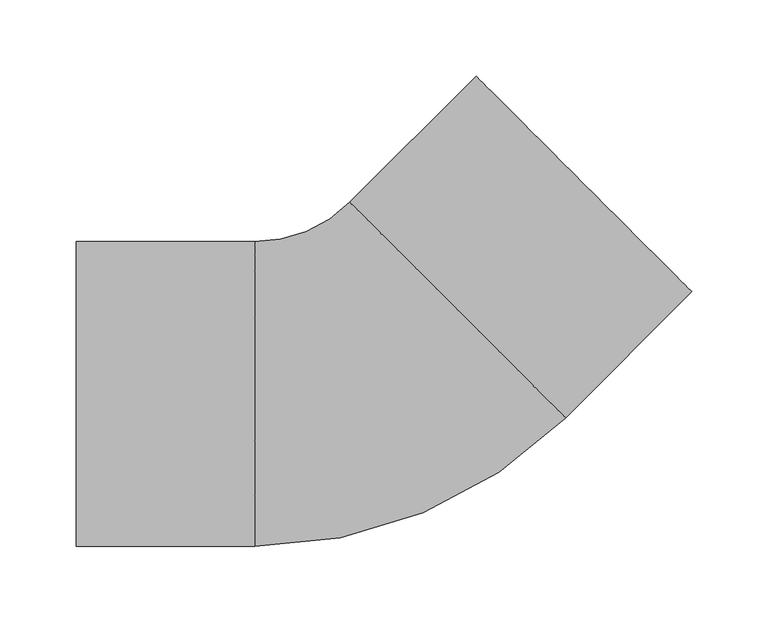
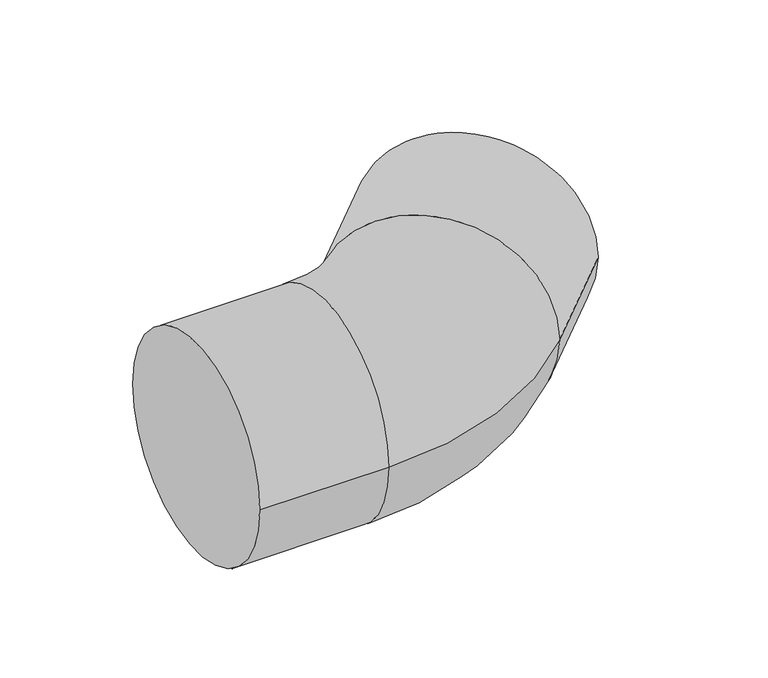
"""IFC4 building model written with IfcOpenShell, lengths in millimetres: pipe fitting geometry, NIRON RED termofusion codo SDR 11 : Estándar."""

import ifcopenshell
import ifcopenshell.guid

model = None  # the IFC model being written
_history = None  # IfcOwnerHistory: only IFC2X3 demands one
_inside = {}  # id of a spatial element -> (the spatial element, [elements in it])
_under = {}  # id of a project, library or spatial element -> (it, [spatial elements below it])
_declared = {}  # id of a project -> (the project, [libraries it declares])
_typed = {}  # id of a type object -> (the type object, [elements of that type])
_made_of = {}  # id of a material, layer set ... -> (it, [elements and type objects made of it])


def new_model(schema):
    """Start an empty IFC model of exactly this schema.

    Asked for "IFC4X3", IfcOpenShell would pick the latest addendum, in which some entities
    have other attributes; the version numbers below select the first issue.
    IFC2X3 requires an IfcOwnerHistory on every rooted entity: one is made here for all.
    """
    global model, _history
    if schema == "IFC4X3":
        model = ifcopenshell.file(schema_version=(4, 3, 0, 0))
    else:
        model = ifcopenshell.file(schema=schema)
    _inside.clear()
    _under.clear()
    _declared.clear()
    _typed.clear()
    _made_of.clear()
    _history = None
    if model.schema == "IFC2X3":
        org = make("IfcOrganization", Name="unknown")
        user = make(
            "IfcPersonAndOrganization",
            ThePerson=make("IfcPerson", FamilyName="unknown"),
            TheOrganization=org,
        )
        app = make(
            "IfcApplication",
            ApplicationDeveloper=org,
            Version="unknown",
            ApplicationFullName="unknown",
            ApplicationIdentifier="unknown",
        )
        _history = make(
            "IfcOwnerHistory",
            OwningUser=user,
            OwningApplication=app,
            ChangeAction="ADDED",
            CreationDate=0,
        )
    return model


def make(cls, **values):
    """One entity of the class cls with the attributes given. An attribute that is None is left unset."""
    return model.create_entity(
        cls, **{name: value for name, value in values.items() if value is not None}
    )


def rooted(cls, **values):
    """An entity with a GlobalId (a new one), such as an element, a storey or a relation."""
    return make(cls, GlobalId=ifcopenshell.guid.new(), OwnerHistory=_history, **values)


def si_unit(unit_type, name, prefix=None):
    """IfcSIUnit, for example si_unit("LENGTHUNIT", "METRE", prefix="MILLI")."""
    return make("IfcSIUnit", UnitType=unit_type, Prefix=prefix, Name=name)


def assignment(units):
    """IfcUnitAssignment: the units of a project."""
    return None if units is None else make("IfcUnitAssignment", Units=units)


def point(xyz):
    """IfcCartesianPoint."""
    return None if xyz is None else make("IfcCartesianPoint", Coordinates=xyz)


def direction(xyz):
    """IfcDirection."""
    return None if xyz is None else make("IfcDirection", DirectionRatios=xyz)


def frame(location, z_axis=None, x_axis=None):
    """IfcAxis2Placement3D, a coordinate frame: its origin and axes. An axis left out is left unset."""
    return make(
        "IfcAxis2Placement3D",
        Location=point(location),
        Axis=direction(z_axis),
        RefDirection=direction(x_axis),
    )


def origin():
    """The frame at (0, 0, 0) with its axes left unset."""
    return frame((0.0, 0.0, 0.0))


def place(relative_to, where):
    """IfcLocalPlacement: puts the frame where relative to a parent placement (None: the world)."""
    return make(
        "IfcLocalPlacement", PlacementRelTo=relative_to, RelativePlacement=where
    )


def context(
    kind, dimensions, precision=None, world=None, true_north=None, identifier=None
):
    """IfcGeometricRepresentationContext, for example the 3D "Model" context."""
    return make(
        "IfcGeometricRepresentationContext",
        ContextIdentifier=identifier,
        ContextType=kind,
        CoordinateSpaceDimension=dimensions,
        Precision=precision,
        WorldCoordinateSystem=world,
        TrueNorth=true_north,
    )


def project(units=None, contexts=None):
    """IfcProject with its units and contexts."""
    return rooted(
        "IfcProject",
        Name="project",
        RepresentationContexts=contexts,
        UnitsInContext=assignment(units),
    )


def spatial(cls, under=None, at=None, **own):
    """A site, building, storey or space (cls), placed at a placement, below another one or the project."""
    s = rooted(cls, ObjectPlacement=at, **own)
    if under is not None:
        _under.setdefault(under.id(), (under, []))[1].append(s)
    return s


def circle_curve(where, radius):
    """IfcCircle in the frame where."""
    return make("IfcCircle", Position=where, Radius=radius)


def ellipse_curve(where, semi_axis1, semi_axis2):
    """IfcEllipse in the frame where."""
    return make(
        "IfcEllipse", Position=where, SemiAxis1=semi_axis1, SemiAxis2=semi_axis2
    )


def trimmed(basis, trim1, trim2, sense, master):
    """IfcTrimmedCurve: the piece of a basis curve between two trims."""
    return make(
        "IfcTrimmedCurve",
        BasisCurve=basis,
        Trim1=trim1,
        Trim2=trim2,
        SenseAgreement=sense,
        MasterRepresentation=master,
    )


def shape(context_of_items, identifier, shape_type, items):
    """IfcShapeRepresentation: the items that make up one representation, for example the "Body"."""
    return make(
        "IfcShapeRepresentation",
        ContextOfItems=context_of_items,
        RepresentationIdentifier=identifier,
        RepresentationType=shape_type,
        Items=items,
    )


def source(mapping_origin, context_of_items, identifier, shape_type, items):
    """IfcRepresentationMap: a shape defined once, which mapped items show again and again."""
    return make(
        "IfcRepresentationMap",
        MappingOrigin=mapping_origin,
        MappedRepresentation=shape(context_of_items, identifier, shape_type, items),
    )


def transform(
    local_origin,
    x_axis=None,
    y_axis=None,
    z_axis=None,
    scale=None,
    scale2=None,
    scale3=None,
    uniform=True,
):
    """IfcCartesianTransformationOperator3D, or its non-uniform kind. x_axis, y_axis, z_axis: its Axis1, 2, 3."""
    if uniform:
        return make(
            "IfcCartesianTransformationOperator3D",
            Axis1=direction(x_axis),
            Axis2=direction(y_axis),
            LocalOrigin=point(local_origin),
            Scale=scale,
            Axis3=direction(z_axis),
        )
    return make(
        "IfcCartesianTransformationOperator3DnonUniform",
        Axis1=direction(x_axis),
        Axis2=direction(y_axis),
        LocalOrigin=point(local_origin),
        Scale=scale,
        Axis3=direction(z_axis),
        Scale2=scale2,
        Scale3=scale3,
    )


def mapped(mapping_source, mapping_target):
    """IfcMappedItem: shows the shape of a source again, moved by a transform."""
    return make(
        "IfcMappedItem", MappingSource=mapping_source, MappingTarget=mapping_target
    )


def made_of(thing, what):
    """Note that an element or type object is made of a material, layer set ...; save() writes the relation."""
    if what is not None:
        _made_of.setdefault(what.id(), (what, []))[1].append(thing)
    return thing


def element(
    cls,
    number,
    at=None,
    inside=None,
    cuts=None,
    type_object=None,
    material=None,
    context=None,
    identifier="Body",
    shape_type=None,
    held_by="IfcProductDefinitionShape",
    body=None,
    shapes=None,
    **own,
):
    """One element of the class cls, such as IfcWall. Its Tag is "e" and its number.

    at: its placement. inside: the storey or other place that contains it. cuts: it is an
    opening in that element (IfcRelVoidsElement). A single representation is given by context,
    identifier, shape_type and body (its items); several are given by shapes. held_by: the class
    of the entity that holds the representations. save() writes the other relations.
    """
    e = rooted(cls, Tag="e%d" % number, ObjectPlacement=at, **own)
    if body is not None:
        shapes = [shape(context, identifier, shape_type, body)]
    if shapes is not None:
        e.Representation = make(held_by, Representations=shapes)
    if inside is not None:
        _inside.setdefault(inside.id(), (inside, []))[1].append(e)
    if cuts is not None:
        rooted(
            "IfcRelVoidsElement", RelatingBuildingElement=cuts, RelatedOpeningElement=e
        )
    if type_object is not None:
        _typed.setdefault(type_object.id(), (type_object, []))[1].append(e)
    return made_of(e, material)


def aggregate(whole, parts):
    """IfcRelAggregates: a whole, such as a stair, and the parts it consists of."""
    return rooted("IfcRelAggregates", RelatingObject=whole, RelatedObjects=parts)


def save(model, path):
    """Write the relations noted so far, then the file.

    IfcRelAggregates (storeys below a building ...), IfcRelContainedInSpatialStructure (elements
    in a storey), IfcRelDefinesByType, IfcRelAssociatesMaterial and IfcRelDeclares: one each for
    every whole, place, type object, material and project.
    """
    for whole, parts in _under.values():
        aggregate(whole, parts)
    for where, things in _inside.values():
        rooted(
            "IfcRelContainedInSpatialStructure",
            RelatedElements=things,
            RelatingStructure=where,
        )
    for kind, things in _typed.values():
        rooted("IfcRelDefinesByType", RelatedObjects=things, RelatingType=kind)
    for what, things in _made_of.values():
        rooted("IfcRelAssociatesMaterial", RelatedObjects=things, RelatingMaterial=what)
    for by, libraries in _declared.values():
        rooted("IfcRelDeclares", RelatingContext=by, RelatedDefinitions=libraries)
    model.write(path)


def plane_surface(at):
    """IfcPlane: the flat surface through the origin of the frame at, square to its z axis."""
    return make("IfcPlane", Position=at)


def cylinder_surface(at, radius):
    """IfcCylindricalSurface: all points at the distance radius from the z axis of the frame at."""
    return make("IfcCylindricalSurface", Position=at, Radius=radius)


def revolved_surface(curve, axis_point, axis_direction):
    """IfcSurfaceOfRevolution: the curve turned about the line through axis_point along axis_direction."""
    return make(
        "IfcSurfaceOfRevolution",
        SweptCurve=make("IfcArbitraryOpenProfileDef", ProfileType="CURVE", Curve=curve),
        AxisPosition=make("IfcAxis1Placement", Location=point(axis_point), Axis=direction(axis_direction)),
    )


def advanced_brep(points, edges, surfaces, faces):
    """IfcAdvancedBrep: a solid bounded by faces that lie on surfaces and meet in shared edges.

    An edge is (start, end): straight between two places in points (the first is 0);
    or (start, end, curve); or (start, end, curve, False) where it runs against its curve.
    A face is (place in surfaces, loops), or (place, loops, False) where it looks against
    its surface's normal. A loop lists edges by number (the first is 1), with a minus sign
    where the edge is run from its end to its start. The first loop is the outer one.
    """
    corners = [point(p) for p in points]
    vertices = [make("IfcVertexPoint", VertexGeometry=c) for c in corners]
    made = []
    for start, end, *more in edges:
        made.append(
            make(
                "IfcEdgeCurve",
                EdgeStart=vertices[start],
                EdgeEnd=vertices[end],
                EdgeGeometry=more[0] if more else make("IfcPolyline", Points=[corners[start], corners[end]]),
                SameSense=more[1] if len(more) > 1 else True,
            )
        )
    hull = []
    for where, loops, *sense in faces:
        bounds = []
        for j, loop in enumerate(loops):
            ring = [make("IfcOrientedEdge", EdgeElement=made[abs(k) - 1], Orientation=k > 0) for k in loop]
            bounds.append(
                make(
                    "IfcFaceOuterBound" if j == 0 else "IfcFaceBound",
                    Bound=make("IfcEdgeLoop", EdgeList=ring),
                    Orientation=True,
                )
            )
        hull.append(make("IfcAdvancedFace", Bounds=bounds, FaceSurface=surfaces[where], SameSense=sense[0] if sense else True))
    return make("IfcAdvancedBrep", Outer=make("IfcClosedShell", CfsFaces=hull))


def pipe_fitting_faf8c4e1(model_context):
    return source(origin(), model_context, "Body", "AdvancedBrep", [
        advanced_brep(
        [(-195.0, -100.0, 0.0), (-195.0, 100.0, 0.0), (-78.0, -100.0, 0.0), (-78.0, 100.0, 0.0), (-15.5563492, 125.8650071, 0.0), (125.8650071, -15.5563492, 0.0), (55.1543289, 55.1543289, 100.0), (55.1543289, 55.1543289, -100.0), (208.5965005, 67.1751442, 0.0), (67.1751442, 208.5965005, 0.0)],
        [
            (0, 1, circle_curve(frame((-195.0, 0.0, 0.0), z_axis=(-1.0, 0.0, 0.0), x_axis=(0.0, 1.0, 0.0)), 100.0)),
            (1, 0, circle_curve(frame((-195.0, 0.0, 0.0), z_axis=(-1.0, 0.0, 0.0), x_axis=(0.0, 1.0, 0.0)), 100.0)),
            (0, 2),
            (2, 3, circle_curve(frame((-78.0, 0.0, 0.0), z_axis=(-1.0, 0.0, 0.0), x_axis=(0.0, 1.0, 0.0)), 100.0)),
            (3, 1),
            (3, 2, circle_curve(frame((-78.0, 0.0, 0.0), z_axis=(-1.0, 0.0, 0.0), x_axis=(0.0, 1.0, 0.0)), 100.0)),
            (4, 3, circle_curve(frame((-78.0, 188.3086579, 0.0), z_axis=(0.0, 0.0, -1.0), x_axis=(0.0, -1.0, 0.0)), 88.3086579)),
            (2, 5, circle_curve(frame((-78.0, 188.3086579, 0.0), z_axis=(0.0, 0.0, 1.0), x_axis=(0.0, -1.0, 0.0)), 288.3086579)),
            (5, 6, circle_curve(frame((55.1543289, 55.1543289, 0.0), z_axis=(-0.7071067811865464, -0.7071067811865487, 0.0), x_axis=(-0.7071067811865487, 0.7071067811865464, 0.0)), 100.0)),
            (6, 4, circle_curve(frame((55.1543289, 55.1543289, 0.0), z_axis=(-0.7071067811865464, -0.7071067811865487, 0.0), x_axis=(-0.7071067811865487, 0.7071067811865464, 0.0)), 100.0)),
            (4, 7, circle_curve(frame((55.1543289, 55.1543289, 0.0), z_axis=(-0.7071067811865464, -0.7071067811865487, 0.0), x_axis=(-0.7071067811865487, 0.7071067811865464, 0.0)), 100.0)),
            (7, 5, circle_curve(frame((55.1543289, 55.1543289, 0.0), z_axis=(-0.7071067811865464, -0.7071067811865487, 0.0), x_axis=(-0.7071067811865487, 0.7071067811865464, 0.0)), 100.0)),
            (8, 9, circle_curve(frame((137.8858223, 137.8858223, 0.0), z_axis=(0.7071067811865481, 0.707106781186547, 0.0), x_axis=(-0.707106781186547, 0.7071067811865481, 0.0)), 100.0)),
            (9, 8, circle_curve(frame((137.8858223, 137.8858223, 0.0), z_axis=(0.7071067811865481, 0.707106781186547, 0.0), x_axis=(-0.707106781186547, 0.7071067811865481, 0.0)), 100.0)),
            (9, 4),
            (5, 8),
        ],
        [
            plane_surface(frame((-195.0, 0.0, 0.0), z_axis=(-1.0, 0.0, 0.0), x_axis=(0.0, 0.0, 1.0))),
            cylinder_surface(frame((-195.0, 0.0, 0.0), z_axis=(-1.0, 0.0, 0.0), x_axis=(0.0, 1.0, 0.0)), 100.0),
            revolved_surface(trimmed(ellipse_curve(frame((-78.0, 0.0, 0.0), z_axis=(-1.0, 0.0, 0.0), x_axis=(0.0, 1.0, 0.0)), 100.0, 100.0), [point((-78.0, -100.0, 0.0))], [point((-78.0, 100.0, 0.0))], True, "CARTESIAN"), (-78.0, 188.3086579, 0.0), (0.0, 0.0, 1.0)),
            revolved_surface(trimmed(ellipse_curve(frame((-78.0, 0.0, 0.0), z_axis=(-1.0, 0.0, 0.0), x_axis=(0.0, 1.0, 0.0)), 100.0, 100.0), [point((-78.0, 100.0, 0.0))], [point((-78.0, -100.0, 0.0))], True, "CARTESIAN"), (-78.0, 188.3086579, 0.0), (0.0, 0.0, 1.0)),
            plane_surface(frame((137.8858223, 137.8858223, 0.0), z_axis=(0.7071067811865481, 0.707106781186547, 0.0), x_axis=(0.0, 0.0, 1.0))),
            cylinder_surface(frame((55.1543289, 55.1543289, 0.0), z_axis=(-0.7071067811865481, -0.707106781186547, 0.0), x_axis=(-0.707106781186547, 0.7071067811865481, 0.0)), 100.0),
        ],
        [
            (0, [[1, 2]]),
            (1, [[-1, 3, 4, 5]]),
            (1, [[-2, -5, 6, -3]]),
            (2, [[7, -4, 8, 9, 10]]),
            (3, [[-7, 11, 12, -8, -6]]),
            (4, [[13, 14]]),
            (5, [[-14, 15, -10, -9, 16]]),
            (5, [[-13, -16, -12, -11, -15]]),
        ],
    ),
    ])


if __name__ == "__main__":
    model = new_model("IFC4")
    model_context = context("Model", 3, world=origin())
    ifc_project = project(units=[si_unit("LENGTHUNIT", "METRE", prefix="MILLI")], contexts=[model_context])
    site = spatial("IfcSite", under=ifc_project)
    building = spatial("IfcBuilding", under=site)
    placement = place(None, origin())
    pipe_fitting_shape = pipe_fitting_faf8c4e1(model_context)
    element("IfcPipeFitting", 1, ObjectType="NIRON RED termofusion codo SDR 11 : Estándar", at=placement, inside=building, context=model_context, shape_type="MappedRepresentation", body=[
        mapped(pipe_fitting_shape, transform((0.0, 0.0, 0.0), x_axis=(1.0, 0.0, 0.0), y_axis=(0.0, 1.0, 0.0), z_axis=(0.0, 0.0, 1.0))),
    ])
    save(model, "model.ifc")
